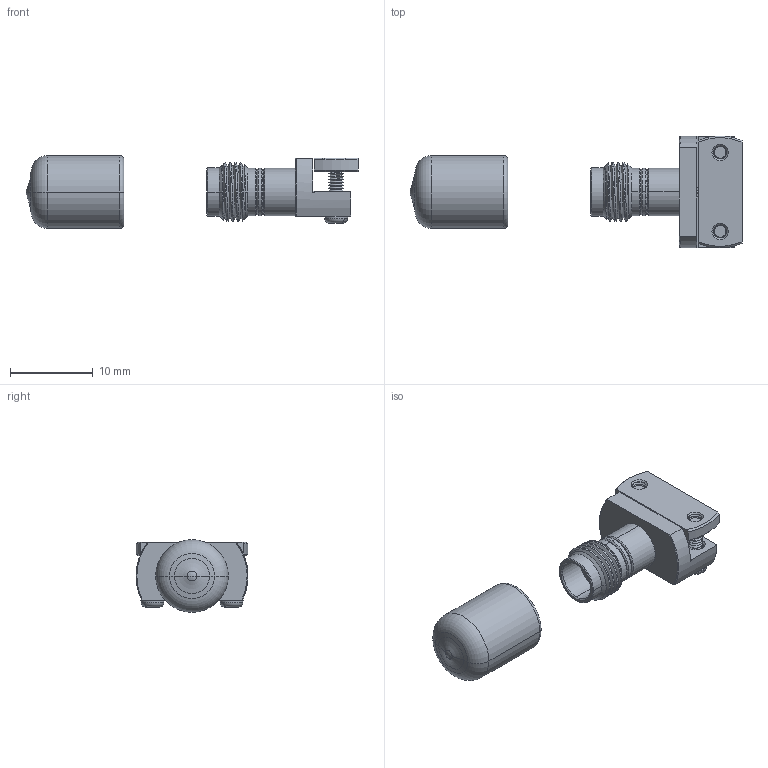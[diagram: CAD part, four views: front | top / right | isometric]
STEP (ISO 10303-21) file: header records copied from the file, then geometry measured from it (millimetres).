
FILE_DESCRIPTION (( 'STEP AP203' ), '1' );
FILE_NAME ('60-20009-44070D.STEP', '2019-12-11T00:51:35', ( '' ), ( '' ), 'SwSTEP 2.0', 'SolidWorks 2016', '' );
FILE_SCHEMA (( 'CONFIG_CONTROL_DESIGN' ));
Length unit declared in the file: millimetre
Products named in the file (19): 110-0012-440000B; 102-1121-700000B; 102-1416-700000A; 101-2735-440000A; 101-2198-440000C; 60-20009-44071D; 101-2194-440070B; 60-20009-44070D; 103-1872-226080A; 108-0061-900000B
Assembly tree (10 placements, depth 3):
  110-0012-440000B
  102-1121-700000B
  101-2735-440000A
  101-2198-440000C
  110-0012-440000B
Bounding box: 40.04 x 13.5 x 8.75 mm (x, y, z)
Volume: 932.8 mm3; surface area: 1932.5 mm2
Topology: 9 solids, 9 shells, 521 faces, 1199 edges, 713 vertices
Faces by surface type: cone 252, cylinder 117, plane 94, torus 34, bspline 18, sphere 6
Entity records: 16095 total; most frequent: CARTESIAN_POINT 4579, DIRECTION 2220, ORIENTED_EDGE 1954, EDGE_CURVE 977, AXIS2_PLACEMENT_3D 925, VERTEX_POINT 589, CIRCLE 498, EDGE_LOOP 466
